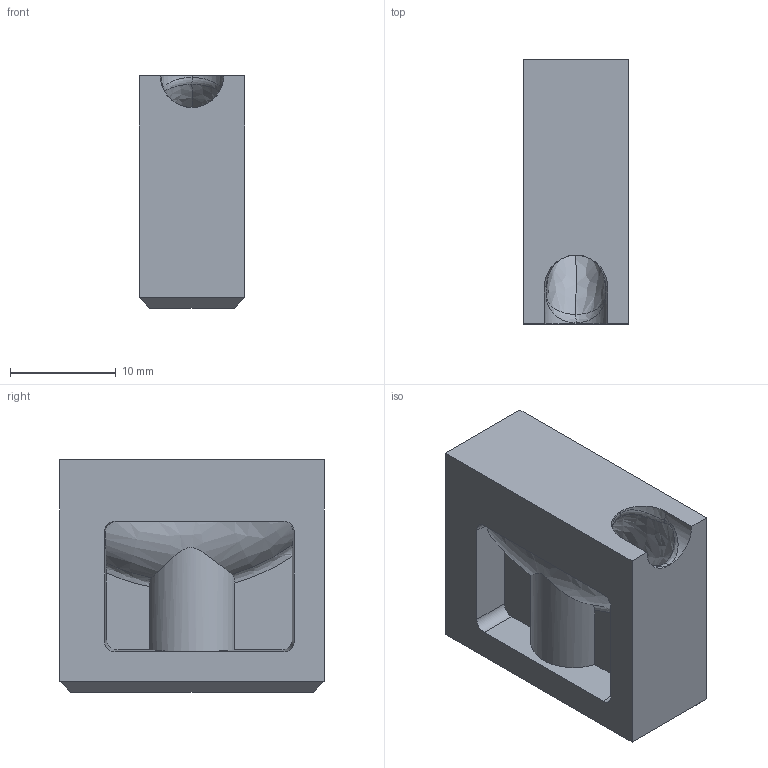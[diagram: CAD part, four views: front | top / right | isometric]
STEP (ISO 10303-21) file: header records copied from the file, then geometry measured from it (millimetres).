
FILE_DESCRIPTION((''),'2;1');
FILE_NAME('SGC2','2006-11-21T',('tmeister'),(''),'PRO/ENGINEER BY PARAMETRIC TECHNOLOGY CORPORATION, 2002390','PRO/ENGINEER BY PARAMETRIC TECHNOLOGY CORPORATION, 2002390','');
FILE_SCHEMA(('CONFIG_CONTROL_DESIGN'));
Length unit declared in the file: millimetre
Products named in the file (1): SGC2
Bounding box: 10 x 25 x 22 mm (x, y, z)
Volume: 4023.3 mm3; surface area: 2837.6 mm2
Topology: 1 solids, 2 shells, 63 faces, 166 edges, 108 vertices
Faces by surface type: plane 23, bspline 16, cylinder 16, cone 4, sphere 4
Entity records: 4087 total; most frequent: CARTESIAN_POINT 2672, ORIENTED_EDGE 310, DIRECTION 224, EDGE_CURVE 157, VERTEX_POINT 100, AXIS2_PLACEMENT_3D 76, VECTOR 72, LINE 72
